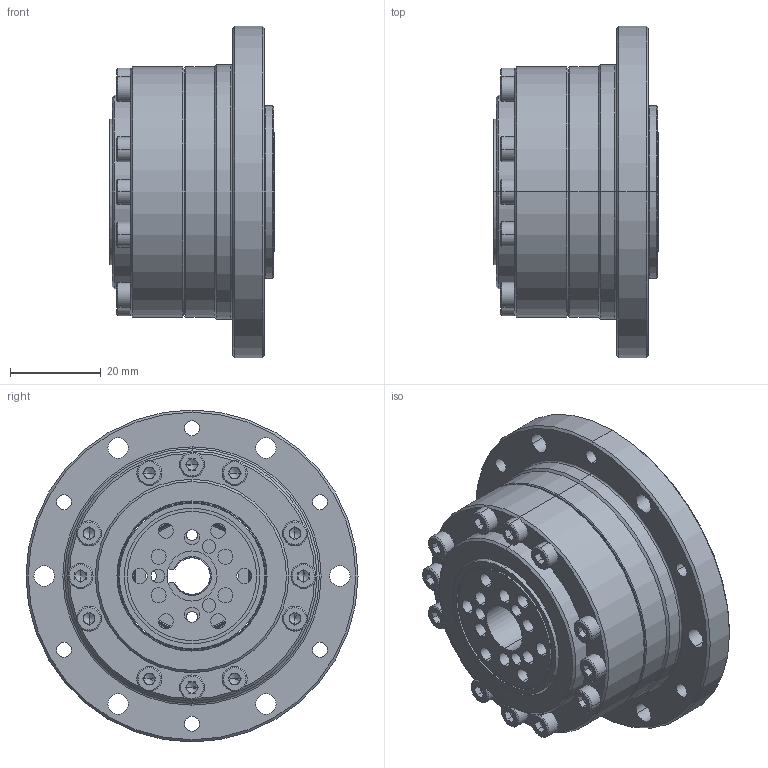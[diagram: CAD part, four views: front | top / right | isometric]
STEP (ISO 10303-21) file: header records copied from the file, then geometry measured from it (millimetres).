
FILE_DESCRIPTION (( 'STEP AP203' ), '1' );
FILE_NAME ('BCS-14-XXX-U-¢ñ.STEP', '2019-01-15T03:08:19', ( 'User' ), ( 'China' ), 'SwSTEP 2.0', 'SolidWorks 2015', '' );
FILE_SCHEMA (( 'CONFIG_CONTROL_DESIGN' ));
Length unit declared in the file: millimetre
Products named in the file (1): BCS-14-XXX-U-ｉ
Bounding box: 36.13 x 73 x 73 mm (x, y, z)
Surface area: 38608.8 mm2 (no closed solid volume)
Topology: 0 solids, 48 shells, 663 faces, 1885 edges, 1191 vertices
Faces by surface type: cylinder 193, plane 157, torus 138, cone 131, sphere 40, bspline 4
Entity records: 22849 total; most frequent: CARTESIAN_POINT 5987, DIRECTION 3877, ORIENTED_EDGE 3062, EDGE_CURVE 1761, AXIS2_PLACEMENT_3D 1633, VERTEX_POINT 1131, CIRCLE 973, EDGE_LOOP 789
